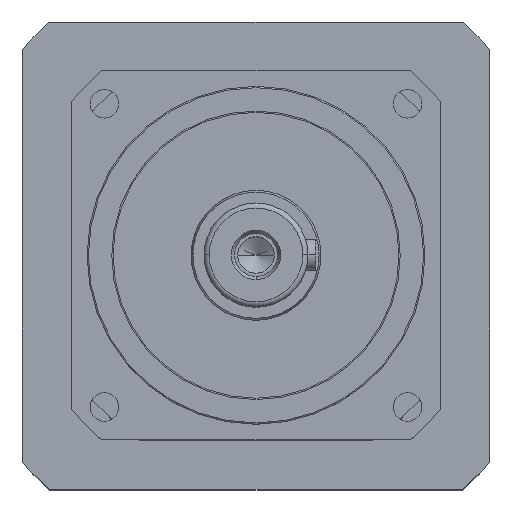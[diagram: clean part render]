
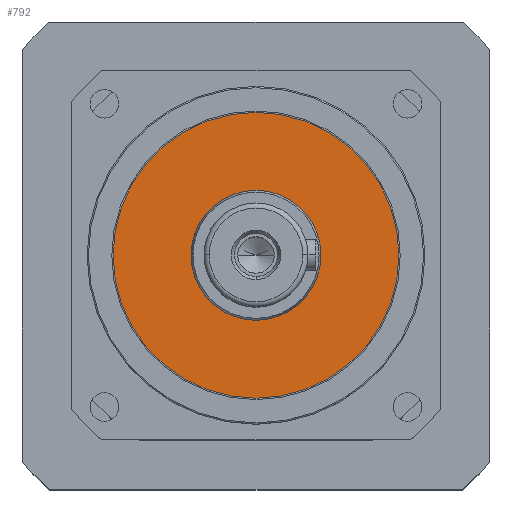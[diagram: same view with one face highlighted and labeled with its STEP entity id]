
A CAD part, top view. The second image highlights one B-rep face of the part: STEP entity #792.
In plain terms, the highlighted planar face has unit normal (0, 0, 1).
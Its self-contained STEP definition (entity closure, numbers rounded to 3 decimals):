
#327 = DIRECTION ( 'NONE',  ( 1., 0., 0. ) ) ;
#792 = ADVANCED_FACE ( 'NONE', ( #3559, #4751 ), #2153, .T. ) ;
#1172 = ORIENTED_EDGE ( 'NONE', *, *, #2335, .T. ) ;
#1310 = CARTESIAN_POINT ( 'NONE',  ( 17.701, -165.879, -27.5 ) ) ;
#2120 = CARTESIAN_POINT ( 'NONE',  ( 42.701, -165.879, -27.5 ) ) ;
#2153 = PLANE ( 'NONE',  #9032 ) ;
#2335 = EDGE_CURVE ( 'NONE', #10219, #6226, #8201, .T. ) ;
#2742 = DIRECTION ( 'NONE',  ( 0., 0., 1. ) ) ;
#2785 = DIRECTION ( 'NONE',  ( 0., 0., 1. ) ) ;
#3069 = ORIENTED_EDGE ( 'NONE', *, *, #8094, .T. ) ;
#3297 = ORIENTED_EDGE ( 'NONE', *, *, #4024, .F. ) ;
#3559 = FACE_OUTER_BOUND ( 'NONE', #12162, .T. ) ;
#3723 = DIRECTION ( 'NONE',  ( 1., 0., 0. ) ) ;
#4024 = EDGE_CURVE ( 'NONE', #5996, #8957, #4900, .T. ) ;
#4026 = EDGE_CURVE ( 'NONE', #8957, #5996, #14304, .T. ) ;
#4627 = ORIENTED_EDGE ( 'NONE', *, *, #4026, .F. ) ;
#4680 = DIRECTION ( 'NONE',  ( 1., 0., 0. ) ) ;
#4751 = FACE_BOUND ( 'NONE', #5168, .T. ) ;
#4832 = DIRECTION ( 'NONE',  ( 1., 0., 0. ) ) ;
#4900 = CIRCLE ( 'NONE', #15053, 25. ) ;
#5081 = DIRECTION ( 'NONE',  ( 0., 0., 1. ) ) ;
#5168 = EDGE_LOOP ( 'NONE', ( #3297, #4627 ) ) ;
#5912 = AXIS2_PLACEMENT_3D ( 'NONE', #13674, #2785, #4832 ) ;
#5996 = VERTEX_POINT ( 'NONE', #7013 ) ;
#6009 = CIRCLE ( 'NONE', #8058, 55. ) ;
#6226 = VERTEX_POINT ( 'NONE', #6773 ) ;
#6421 = DIRECTION ( 'NONE',  ( 0., 0., 1. ) ) ;
#6773 = CARTESIAN_POINT ( 'NONE',  ( 72.701, -165.879, -27.5 ) ) ;
#7013 = CARTESIAN_POINT ( 'NONE',  ( -7.299, -165.879, -27.5 ) ) ;
#7408 = DIRECTION ( 'NONE',  ( 1., 0., 0. ) ) ;
#8058 = AXIS2_PLACEMENT_3D ( 'NONE', #10726, #12150, #4680 ) ;
#8094 = EDGE_CURVE ( 'NONE', #6226, #10219, #6009, .T. ) ;
#8201 = CIRCLE ( 'NONE', #13778, 55. ) ;
#8957 = VERTEX_POINT ( 'NONE', #2120 ) ;
#9032 = AXIS2_PLACEMENT_3D ( 'NONE', #12458, #6421, #3723 ) ;
#9789 = CARTESIAN_POINT ( 'NONE',  ( 17.701, -165.879, -27.5 ) ) ;
#10219 = VERTEX_POINT ( 'NONE', #11651 ) ;
#10726 = CARTESIAN_POINT ( 'NONE',  ( 17.701, -165.879, -27.5 ) ) ;
#11651 = CARTESIAN_POINT ( 'NONE',  ( -37.299, -165.879, -27.5 ) ) ;
#12150 = DIRECTION ( 'NONE',  ( 0., 0., 1. ) ) ;
#12162 = EDGE_LOOP ( 'NONE', ( #3069, #1172 ) ) ;
#12458 = CARTESIAN_POINT ( 'NONE',  ( 17.701, -165.879, -27.5 ) ) ;
#13674 = CARTESIAN_POINT ( 'NONE',  ( 17.701, -165.879, -27.5 ) ) ;
#13778 = AXIS2_PLACEMENT_3D ( 'NONE', #1310, #2742, #7408 ) ;
#14304 = CIRCLE ( 'NONE', #5912, 25. ) ;
#15053 = AXIS2_PLACEMENT_3D ( 'NONE', #9789, #5081, #327 ) ;
